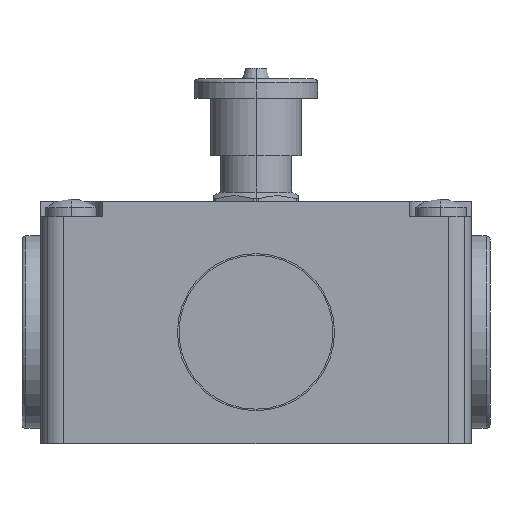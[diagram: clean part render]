
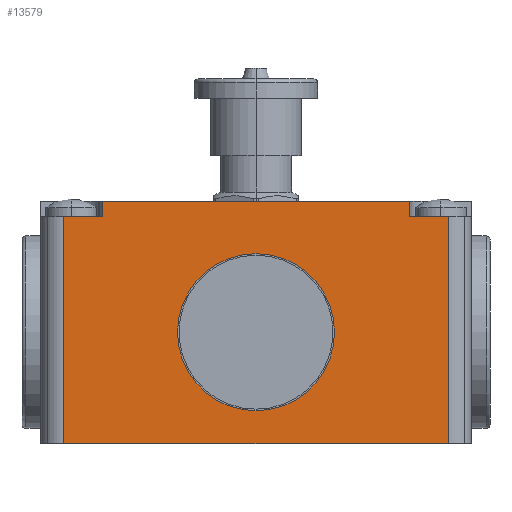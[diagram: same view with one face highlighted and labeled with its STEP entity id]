
A CAD part, front view. The second image highlights one B-rep face of the part: STEP entity #13579.
In plain terms, the highlighted planar face has unit normal (0, -1, 0).
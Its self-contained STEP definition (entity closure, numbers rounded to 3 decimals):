
#185 = VERTEX_POINT ( 'NONE', #19115 ) ;
#327 = AXIS2_PLACEMENT_3D ( 'NONE', #18392, #8848, #20010 ) ;
#443 = CARTESIAN_POINT ( 'NONE',  ( -25., -56.8, 15. ) ) ;
#972 = EDGE_CURVE ( 'NONE', #11627, #20516, #2032, .T. ) ;
#994 = ORIENTED_EDGE ( 'NONE', *, *, #20632, .F. ) ;
#1294 = ORIENTED_EDGE ( 'NONE', *, *, #16781, .T. ) ;
#1347 = LINE ( 'NONE', #18954, #8823 ) ;
#1459 = ORIENTED_EDGE ( 'NONE', *, *, #972, .F. ) ;
#1729 = CARTESIAN_POINT ( 'NONE',  ( -20., -56.8, 17. ) ) ;
#2032 = LINE ( 'NONE', #4879, #19466 ) ;
#2123 = LINE ( 'NONE', #11955, #14300 ) ;
#2380 = DIRECTION ( 'NONE',  ( 1., 0., 0. ) ) ;
#2616 = LINE ( 'NONE', #13403, #10568 ) ;
#3090 = VECTOR ( 'NONE', #11211, 1000. ) ;
#3103 = CARTESIAN_POINT ( 'NONE',  ( -25., -56.8, 17. ) ) ;
#3724 = VECTOR ( 'NONE', #14213, 1000. ) ;
#4447 = PLANE ( 'NONE',  #4805 ) ;
#4610 = AXIS2_PLACEMENT_3D ( 'NONE', #16913, #7390, #18523 ) ;
#4719 = LINE ( 'NONE', #3103, #3724 ) ;
#4732 = EDGE_CURVE ( 'NONE', #185, #7812, #6512, .T. ) ;
#4805 = AXIS2_PLACEMENT_3D ( 'NONE', #8953, #15566, #6040 ) ;
#4879 = CARTESIAN_POINT ( 'NONE',  ( -25., -56.8, -14.5 ) ) ;
#5728 = LINE ( 'NONE', #16116, #9486 ) ;
#6019 = EDGE_CURVE ( 'NONE', #7812, #11538, #4719, .T. ) ;
#6040 = DIRECTION ( 'NONE',  ( 0., 0., -1. ) ) ;
#6512 = LINE ( 'NONE', #13848, #14454 ) ;
#6902 = VERTEX_POINT ( 'NONE', #18624 ) ;
#7178 = CIRCLE ( 'NONE', #327, 10.2 ) ;
#7371 = ORIENTED_EDGE ( 'NONE', *, *, #4732, .F. ) ;
#7390 = DIRECTION ( 'NONE',  ( 0., -1., 0. ) ) ;
#7812 = VERTEX_POINT ( 'NONE', #1729 ) ;
#8071 = DIRECTION ( 'NONE',  ( 0., 0., 1. ) ) ;
#8204 = ORIENTED_EDGE ( 'NONE', *, *, #9695, .F. ) ;
#8405 = FACE_BOUND ( 'NONE', #16432, .T. ) ;
#8823 = VECTOR ( 'NONE', #9427, 1000. ) ;
#8848 = DIRECTION ( 'NONE',  ( 0., -1., 0. ) ) ;
#8953 = CARTESIAN_POINT ( 'NONE',  ( -25., -56.8, -14.5 ) ) ;
#9043 = ORIENTED_EDGE ( 'NONE', *, *, #9720, .T. ) ;
#9427 = DIRECTION ( 'NONE',  ( 0., 0., 1. ) ) ;
#9486 = VECTOR ( 'NONE', #11377, 1000. ) ;
#9695 = EDGE_CURVE ( 'NONE', #20516, #185, #2616, .T. ) ;
#9720 = EDGE_CURVE ( 'NONE', #11627, #15236, #2123, .T. ) ;
#10568 = VECTOR ( 'NONE', #2380, 1000. ) ;
#11211 = DIRECTION ( 'NONE',  ( 0., 0., 1. ) ) ;
#11377 = DIRECTION ( 'NONE',  ( -1., 0., 0. ) ) ;
#11538 = VERTEX_POINT ( 'NONE', #15118 ) ;
#11539 = LINE ( 'NONE', #12802, #3090 ) ;
#11627 = VERTEX_POINT ( 'NONE', #18475 ) ;
#11955 = CARTESIAN_POINT ( 'NONE',  ( -25., -56.8, -14.5 ) ) ;
#12454 = CARTESIAN_POINT ( 'NONE',  ( 25., -56.8, -14.5 ) ) ;
#12802 = CARTESIAN_POINT ( 'NONE',  ( 25., -56.8, -14.5 ) ) ;
#13403 = CARTESIAN_POINT ( 'NONE',  ( -28., -56.8, 15. ) ) ;
#13562 = ORIENTED_EDGE ( 'NONE', *, *, #6019, .F. ) ;
#13579 = ADVANCED_FACE ( 'NONE', ( #8405, #13587 ), #4447, .T. ) ;
#13587 = FACE_OUTER_BOUND ( 'NONE', #15930, .T. ) ;
#13848 = CARTESIAN_POINT ( 'NONE',  ( -20., -56.8, 15. ) ) ;
#14213 = DIRECTION ( 'NONE',  ( 1., 0., 0. ) ) ;
#14300 = VECTOR ( 'NONE', #19927, 1000. ) ;
#14409 = ORIENTED_EDGE ( 'NONE', *, *, #19029, .T. ) ;
#14454 = VECTOR ( 'NONE', #17149, 1000. ) ;
#15118 = CARTESIAN_POINT ( 'NONE',  ( 20., -56.8, 17. ) ) ;
#15236 = VERTEX_POINT ( 'NONE', #12454 ) ;
#15286 = EDGE_CURVE ( 'NONE', #6902, #11538, #1347, .T. ) ;
#15546 = VERTEX_POINT ( 'NONE', #16767 ) ;
#15566 = DIRECTION ( 'NONE',  ( 0., -1., 0. ) ) ;
#15634 = CIRCLE ( 'NONE', #4610, 10.2 ) ;
#15705 = VERTEX_POINT ( 'NONE', #19201 ) ;
#15813 = ORIENTED_EDGE ( 'NONE', *, *, #15286, .T. ) ;
#15930 = EDGE_LOOP ( 'NONE', ( #9043, #1294, #14409, #15813, #13562, #7371, #8204, #1459 ) ) ;
#16116 = CARTESIAN_POINT ( 'NONE',  ( 28., -56.8, 15. ) ) ;
#16432 = EDGE_LOOP ( 'NONE', ( #994, #17077 ) ) ;
#16539 = VERTEX_POINT ( 'NONE', #18407 ) ;
#16767 = CARTESIAN_POINT ( 'NONE',  ( 0., -56.8, 10.2 ) ) ;
#16781 = EDGE_CURVE ( 'NONE', #15236, #16539, #11539, .T. ) ;
#16913 = CARTESIAN_POINT ( 'NONE',  ( 0., -56.8, 0. ) ) ;
#17077 = ORIENTED_EDGE ( 'NONE', *, *, #20657, .F. ) ;
#17149 = DIRECTION ( 'NONE',  ( 0., 0., 1. ) ) ;
#18392 = CARTESIAN_POINT ( 'NONE',  ( 0., -56.8, 0. ) ) ;
#18407 = CARTESIAN_POINT ( 'NONE',  ( 25., -56.8, 15. ) ) ;
#18475 = CARTESIAN_POINT ( 'NONE',  ( -25., -56.8, -14.5 ) ) ;
#18523 = DIRECTION ( 'NONE',  ( 0., 0., -1. ) ) ;
#18624 = CARTESIAN_POINT ( 'NONE',  ( 20., -56.8, 15. ) ) ;
#18954 = CARTESIAN_POINT ( 'NONE',  ( 20., -56.8, 15. ) ) ;
#19029 = EDGE_CURVE ( 'NONE', #16539, #6902, #5728, .T. ) ;
#19115 = CARTESIAN_POINT ( 'NONE',  ( -20., -56.8, 15. ) ) ;
#19201 = CARTESIAN_POINT ( 'NONE',  ( 0., -56.8, -10.2 ) ) ;
#19466 = VECTOR ( 'NONE', #8071, 1000. ) ;
#19927 = DIRECTION ( 'NONE',  ( 1., 0., 0. ) ) ;
#20010 = DIRECTION ( 'NONE',  ( 0., 0., -1. ) ) ;
#20516 = VERTEX_POINT ( 'NONE', #443 ) ;
#20632 = EDGE_CURVE ( 'NONE', #15705, #15546, #7178, .T. ) ;
#20657 = EDGE_CURVE ( 'NONE', #15546, #15705, #15634, .T. ) ;
